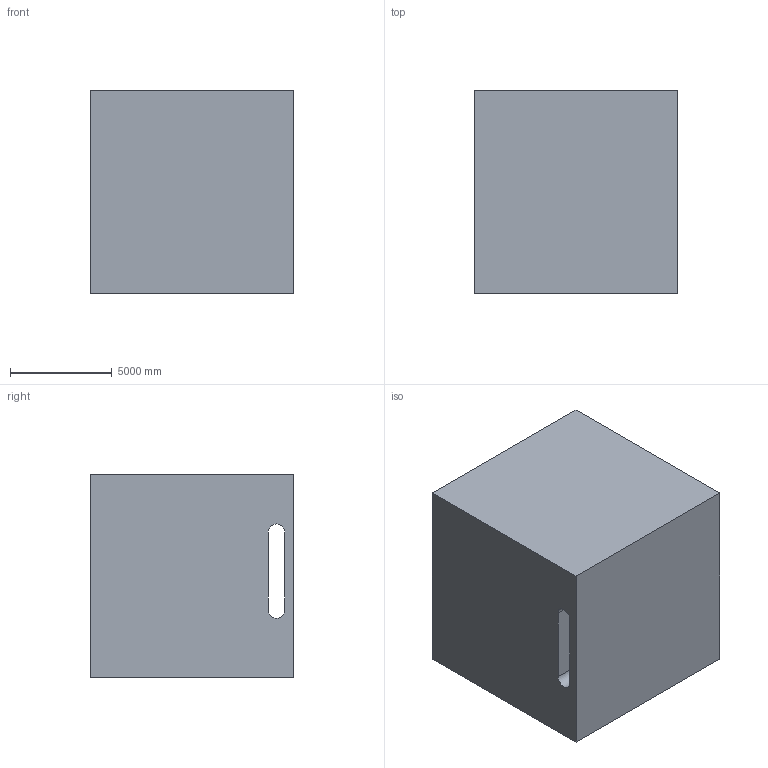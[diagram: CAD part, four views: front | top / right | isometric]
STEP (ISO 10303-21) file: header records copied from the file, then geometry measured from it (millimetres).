
FILE_DESCRIPTION (( 'STEP AP203' ), '1' );
FILE_NAME ('4.STEP', '2022-09-01T14:09:46', ( 'user' ), ( '' ), 'SwSTEP 2.0', 'SolidWorks 2021', '' );
FILE_SCHEMA (( 'CONFIG_CONTROL_DESIGN' ));
Length unit declared in the file: centimetre
Products named in the file (1): 4
Bounding box: 10000 x 10000 x 10000 mm (x, y, z)
Volume: 940023931183.3 mm3; surface area: 694996244.7 mm2
Topology: 1 solids, 1 shells, 14 faces, 36 edges, 24 vertices
Faces by surface type: plane 11, cylinder 3
Entity records: 507 total; most frequent: CARTESIAN_POINT 75, DIRECTION 72, ORIENTED_EDGE 72, EDGE_CURVE 36, VECTOR 30, LINE 30, VERTEX_POINT 24, AXIS2_PLACEMENT_3D 21
